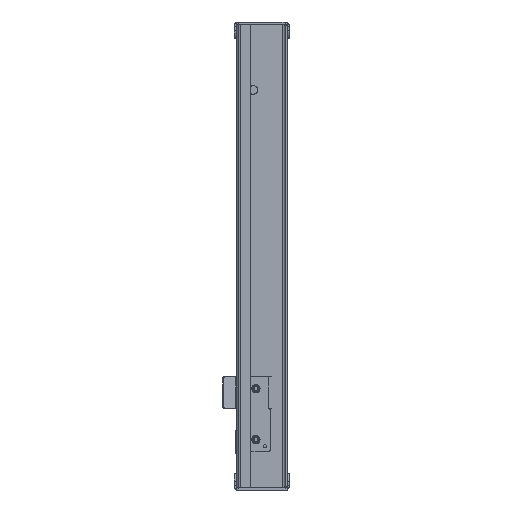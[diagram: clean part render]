
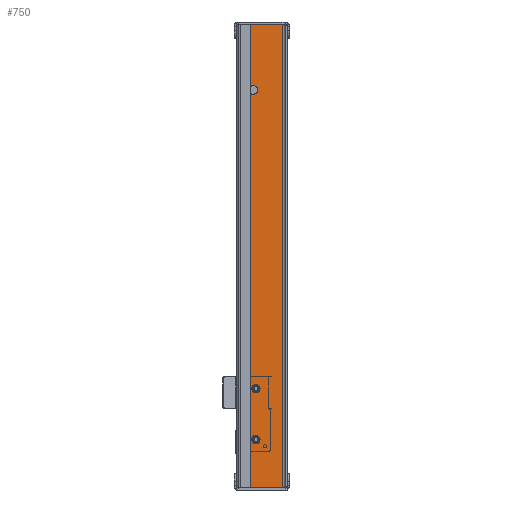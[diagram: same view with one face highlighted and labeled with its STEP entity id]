
A CAD part, front view. The second image highlights one B-rep face of the part: STEP entity #750.
In plain terms, the highlighted planar face has unit normal (0, -1, 0).
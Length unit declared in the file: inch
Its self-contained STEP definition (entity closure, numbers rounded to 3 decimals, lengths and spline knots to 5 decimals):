
#88=DIRECTION('',(0.,0.,-1.));
#89=VECTOR('',#88,27.3125);
#90=CARTESIAN_POINT('',(2.625,1.375,0.));
#91=LINE('',#90,#89);
#156=DIRECTION('',(1.,0.,0.));
#157=VECTOR('',#156,2.5);
#158=CARTESIAN_POINT('',(0.125,1.375,0.));
#159=LINE('',#158,#157);
#168=DIRECTION('',(0.,0.,-1.));
#169=VECTOR('',#168,27.3125);
#170=CARTESIAN_POINT('',(0.125,1.375,0.));
#171=LINE('',#170,#169);
#172=CARTESIAN_POINT('',(0.875,1.375,-3.875));
#173=DIRECTION('',(0.,-1.,0.));
#174=DIRECTION('',(0.,0.,1.));
#175=AXIS2_PLACEMENT_3D('',#172,#173,#174);
#177=CARTESIAN_POINT('',(0.875,1.375,-3.875));
#178=DIRECTION('',(0.,-1.,0.));
#179=DIRECTION('',(0.,0.,-1.));
#180=AXIS2_PLACEMENT_3D('',#177,#178,#179);
#182=CARTESIAN_POINT('',(1.035,1.375,-21.47));
#183=DIRECTION('',(0.,-1.,0.));
#184=DIRECTION('',(0.,0.,1.));
#185=AXIS2_PLACEMENT_3D('',#182,#183,#184);
#187=CARTESIAN_POINT('',(1.035,1.375,-21.47));
#188=DIRECTION('',(0.,-1.,0.));
#189=DIRECTION('',(0.,0.,-1.));
#190=AXIS2_PLACEMENT_3D('',#187,#188,#189);
#192=CARTESIAN_POINT('',(1.035,1.375,-24.47));
#193=DIRECTION('',(0.,-1.,0.));
#194=DIRECTION('',(0.,0.,1.));
#195=AXIS2_PLACEMENT_3D('',#192,#193,#194);
#197=CARTESIAN_POINT('',(1.035,1.375,-24.47));
#198=DIRECTION('',(0.,-1.,0.));
#199=DIRECTION('',(0.,0.,-1.));
#200=AXIS2_PLACEMENT_3D('',#197,#198,#199);
#202=DIRECTION('',(1.,0.,0.));
#203=VECTOR('',#202,2.5);
#204=CARTESIAN_POINT('',(0.125,1.375,-27.3125));
#205=LINE('',#204,#203);
#412=CARTESIAN_POINT('',(0.125,1.375,0.));
#413=VERTEX_POINT('',#412);
#414=CARTESIAN_POINT('',(2.625,1.375,0.));
#415=VERTEX_POINT('',#414);
#424=CARTESIAN_POINT('',(0.125,1.375,-27.3125));
#425=VERTEX_POINT('',#424);
#426=CARTESIAN_POINT('',(2.625,1.375,-27.3125));
#427=VERTEX_POINT('',#426);
#486=CARTESIAN_POINT('',(0.875,1.375,-3.6095));
#487=CARTESIAN_POINT('',(0.875,1.375,-4.1405));
#488=VERTEX_POINT('',#486);
#489=VERTEX_POINT('',#487);
#494=CARTESIAN_POINT('',(1.035,1.375,-21.3135));
#495=CARTESIAN_POINT('',(1.035,1.375,-21.6265));
#496=VERTEX_POINT('',#494);
#497=VERTEX_POINT('',#495);
#498=CARTESIAN_POINT('',(1.035,1.375,-24.3135));
#499=CARTESIAN_POINT('',(1.035,1.375,-24.6265));
#500=VERTEX_POINT('',#498);
#501=VERTEX_POINT('',#499);
#719=CARTESIAN_POINT('',(0.125,1.375,0.));
#720=DIRECTION('',(0.,-1.,0.));
#721=DIRECTION('',(1.,0.,0.));
#722=AXIS2_PLACEMENT_3D('',#719,#720,#721);
#723=PLANE('',#722);
#724=ORIENTED_EDGE('',*,*,#710,.T.);
#725=ORIENTED_EDGE('',*,*,#611,.T.);
#727=ORIENTED_EDGE('',*,*,#726,.F.);
#729=ORIENTED_EDGE('',*,*,#728,.F.);
#730=EDGE_LOOP('',(#724,#725,#727,#729));
#731=FACE_OUTER_BOUND('',#730,.F.);
#733=ORIENTED_EDGE('',*,*,#732,.T.);
#735=ORIENTED_EDGE('',*,*,#734,.T.);
#736=EDGE_LOOP('',(#733,#735));
#737=FACE_BOUND('',#736,.F.);
#739=ORIENTED_EDGE('',*,*,#738,.T.);
#741=ORIENTED_EDGE('',*,*,#740,.T.);
#742=EDGE_LOOP('',(#739,#741));
#743=FACE_BOUND('',#742,.F.);
#745=ORIENTED_EDGE('',*,*,#744,.T.);
#747=ORIENTED_EDGE('',*,*,#746,.T.);
#748=EDGE_LOOP('',(#745,#747));
#749=FACE_BOUND('',#748,.F.);
#176=CIRCLE('',#175,0.2655);
#181=CIRCLE('',#180,0.2655);
#186=CIRCLE('',#185,0.1565);
#191=CIRCLE('',#190,0.1565);
#196=CIRCLE('',#195,0.1565);
#201=CIRCLE('',#200,0.1565);
#611=EDGE_CURVE('',#415,#427,#91,.T.);
#710=EDGE_CURVE('',#413,#415,#159,.T.);
#726=EDGE_CURVE('',#425,#427,#205,.T.);
#728=EDGE_CURVE('',#413,#425,#171,.T.);
#732=EDGE_CURVE('',#488,#489,#176,.T.);
#734=EDGE_CURVE('',#489,#488,#181,.T.);
#738=EDGE_CURVE('',#496,#497,#186,.T.);
#740=EDGE_CURVE('',#497,#496,#191,.T.);
#744=EDGE_CURVE('',#500,#501,#196,.T.);
#746=EDGE_CURVE('',#501,#500,#201,.T.);
#750=ADVANCED_FACE('',(#731,#737,#743,#749),#723,.T.);
